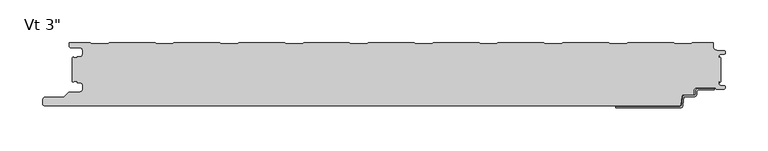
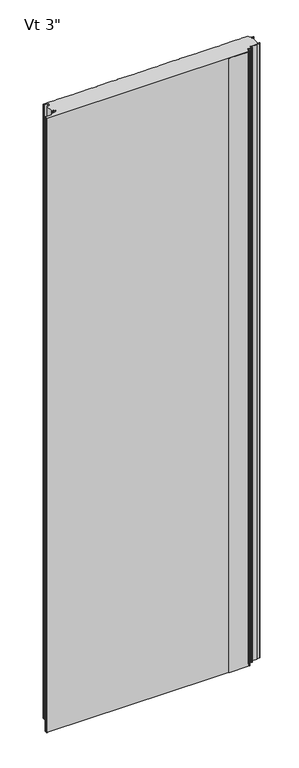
"""IFC4 building model written with IfcOpenShell, lengths in millimetres: plate geometry."""

from ifc_helpers import new_model, si_unit, frame, origin, place, context, project, spatial, polyline, circle_curve, source, transform, mapped, element, save
from ifc_brep_helpers import plane_surface, cylinder_surface, revolved_surface, advanced_brep


def plate_a019a109(model_context):
    return source(origin(), model_context, "Body", "AdvancedBrep", [
        advanced_brep(
        [(354.8464083, -55.1008679, 0.0), (373.5916083, -55.1008679, 0.0), (373.5916083, -56.6248679, 0.0), (354.8464083, -56.6248679, 0.0), (353.3224083, -58.1488679, 0.0), (353.3224083, -61.2476679, 0.0), (349.8680083, -64.7020679, 0.0), (338.655451, -64.7020679, 0.0), (337.8963506, -65.3976552, 0.0), (336.701523, -74.9416507, 0.0), (333.6651216, -77.724, 0.0), (258.0978083, -77.7360323, 0.0), (258.0978083, -76.2, 0.0), (333.6651216, -76.2, 0.0), (335.1833223, -74.8088254, 0.0), (336.3781499, -65.2648299, 0.0), (338.655451, -63.1780679, 0.0), (349.8680083, -63.1780679, 0.0), (351.7984083, -61.2476679, 0.0), (351.7984083, -58.1488679, 0.0), (354.8464083, -55.1008679, 2400.0), (351.7984083, -58.1488679, 2400.0), (351.7984083, -61.2476679, 2400.0), (349.8680083, -63.1780679, 2400.0), (338.655451, -63.1780679, 2400.0), (336.3781499, -65.2648299, 2400.0), (335.1833223, -74.8088254, 2400.0), (333.6651216, -76.2, 2400.0), (258.0978083, -76.2, 2400.0), (258.0978083, -77.7360323, 2400.0), (333.6651216, -77.7360323, 2400.0), (336.701523, -74.9416507, 2400.0), (337.8963506, -65.3976552, 2400.0), (338.655451, -64.7020679, 2400.0), (349.8680083, -64.7020679, 2400.0), (353.3224083, -61.2476679, 2400.0), (353.3224083, -58.1488679, 2400.0), (354.8464083, -56.6248679, 2400.0), (373.5916083, -56.6248679, 2400.0), (373.5916083, -55.1008679, 2400.0)],
        [
            (0, 1),
            (1, 2),
            (2, 3),
            (3, 4, circle_curve(frame((354.8464083, -58.1488679, 0.0), z_axis=(0.0, 0.0, 1.0), x_axis=(0.0, 1.0, 0.0)), 1.524)),
            (4, 5),
            (5, 6, circle_curve(frame((349.8680083, -61.2476679, 0.0), z_axis=(0.0, 0.0, -1.0), x_axis=(0.0, 1.0, 0.0)), 3.4544)),
            (6, 7),
            (7, 8, circle_curve(frame((338.655451, -65.4640679, 0.0), z_axis=(0.0, 0.0, 1.0), x_axis=(0.0, 1.0, 0.0)), 0.762)),
            (8, 9),
            (9, 10, circle_curve(frame((333.6651216, -74.676, 0.0), z_axis=(0.0, 0.0, -1.0), x_axis=(0.0, 1.0, 0.0)), 3.048)),
            (10, 11),
            (11, 12),
            (12, 13),
            (13, 14, circle_curve(frame((333.6651216, -74.676, 0.0), z_axis=(0.0, 0.0, 1.0), x_axis=(0.0, 1.0, 0.0)), 1.524)),
            (14, 15),
            (15, 16, circle_curve(frame((338.655451, -65.4640679, 0.0), z_axis=(0.0, 0.0, -1.0), x_axis=(0.0, 1.0, 0.0)), 2.286)),
            (16, 17),
            (17, 18, circle_curve(frame((349.8680083, -61.2476679, 0.0), z_axis=(0.0, 0.0, 1.0), x_axis=(0.0, 1.0, 0.0)), 1.9304)),
            (18, 19),
            (19, 0, circle_curve(frame((354.8464083, -58.1488679, 0.0), z_axis=(0.0, 0.0, -1.0), x_axis=(0.0, 1.0, 0.0)), 3.048)),
            (20, 21, circle_curve(frame((354.8464083, -58.1488679, 2400.0), z_axis=(0.0, 0.0, 1.0), x_axis=(0.0, 1.0, 0.0)), 3.048)),
            (21, 22),
            (22, 23, circle_curve(frame((349.8680083, -61.2476679, 2400.0), z_axis=(0.0, 0.0, -1.0), x_axis=(0.0, 1.0, 0.0)), 1.9304)),
            (23, 24),
            (24, 25, circle_curve(frame((338.655451, -65.4640679, 2400.0), z_axis=(0.0, 0.0, 1.0), x_axis=(0.0, 1.0, 0.0)), 2.286)),
            (25, 26),
            (26, 27, circle_curve(frame((333.6651216, -74.676, 2400.0), z_axis=(0.0, 0.0, -1.0), x_axis=(0.0, 1.0, 0.0)), 1.524)),
            (27, 28),
            (28, 29),
            (29, 30),
            (30, 31, circle_curve(frame((333.6651216, -74.676, 2400.0), z_axis=(0.0, 0.0, 1.0), x_axis=(0.0, 1.0, 0.0)), 3.048)),
            (31, 32),
            (32, 33, circle_curve(frame((338.655451, -65.4640679, 2400.0), z_axis=(0.0, 0.0, -1.0), x_axis=(0.0, 1.0, 0.0)), 0.762)),
            (33, 34),
            (34, 35, circle_curve(frame((349.8680083, -61.2476679, 2400.0), z_axis=(0.0, 0.0, 1.0), x_axis=(0.0, 1.0, 0.0)), 3.4544)),
            (35, 36),
            (36, 37, circle_curve(frame((354.8464083, -58.1488679, 2400.0), z_axis=(0.0, 0.0, -1.0), x_axis=(0.0, 1.0, 0.0)), 1.524)),
            (37, 38),
            (38, 39),
            (39, 20),
            (2, 38),
            (37, 3),
            (15, 25),
            (24, 16),
            (7, 33),
            (32, 8),
            (5, 35),
            (34, 6),
            (1, 39),
            (36, 4),
            (9, 31),
            (30, 10),
            (13, 27),
            (26, 14),
            (0, 20),
            (12, 28),
            (29, 11),
            (23, 17),
            (18, 22),
            (21, 19),
        ],
        [
            plane_surface(frame((373.5916083, -76.2, 0.0), z_axis=(0.0, 0.0, -1.0), x_axis=(-1.0, 0.0, 0.0))),
            plane_surface(frame((373.5916083, -76.2, 2400.0), z_axis=(0.0, 0.0, 1.0), x_axis=(-1.0, 0.0, 0.0))),
            plane_surface(frame((354.8464083, -56.6248679, 0.0), z_axis=(0.0, -1.0, 0.0), x_axis=(0.0, 0.0, 1.0))),
            cylinder_surface(frame((338.655451, -65.4640679, 0.0), z_axis=(0.0, 0.0, -1.0), x_axis=(0.0, 1.0, 0.0)), 2.286),
            revolved_surface(polyline([(338.655451, -64.7020679, 2400.0), (338.655451, -64.7020679, 0.0)]), (338.655451, -65.4640679, 0.0), (0.0, 0.0, 1.0)),
            cylinder_surface(frame((349.8680083, -61.2476679, 0.0), z_axis=(0.0, 0.0, -1.0), x_axis=(0.0, 1.0, 0.0)), 3.4544),
            plane_surface(frame((373.5916083, -56.6248679, 0.0), z_axis=(1.0, 0.0, 0.0), x_axis=(0.0, 0.0, 1.0))),
            revolved_surface(polyline([(354.8464083, -56.6248679, 2400.0), (354.8464083, -56.6248679, 0.0)]), (354.8464083, -58.1488679, 0.0), (0.0, 0.0, 1.0)),
            cylinder_surface(frame((333.6651216, -74.676, 0.0), z_axis=(0.0, 0.0, -1.0), x_axis=(0.0, 1.0, 0.0)), 3.048),
            revolved_surface(polyline([(333.6651216, -73.152, 2400.0), (333.6651216, -73.152, 0.0)]), (333.6651216, -74.676, 0.0), (0.0, 0.0, 1.0)),
            plane_surface(frame((373.5916083, -55.1008679, 0.0), z_axis=(0.0, 1.0, 0.0), x_axis=(0.0, 0.0, 1.0))),
            plane_surface(frame((336.3781499, -65.2648299, 0.0), z_axis=(-0.9922544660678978, 0.12422187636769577, 0.0), x_axis=(0.0, 0.0, 1.0))),
            plane_surface(frame((333.6651216, -76.2, 0.0), z_axis=(0.0, 1.0, 0.0), x_axis=(0.0, 0.0, 1.0))),
            plane_surface(frame((336.701523, -74.9416507, 0.0), z_axis=(0.9922544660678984, -0.12422187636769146, 0.0), x_axis=(0.0, 0.0, 1.0))),
            plane_surface(frame((353.3224083, -61.2476679, 0.0), z_axis=(1.0, 0.0, 0.0), x_axis=(0.0, 0.0, 1.0))),
            plane_surface(frame((258.0978083, -77.7360323, 0.0), z_axis=(0.0, -1.0, 0.0), x_axis=(0.0, 0.0, 1.0))),
            plane_surface(frame((258.0978083, -76.2, 0.0), z_axis=(-1.0, 0.0, 0.0), x_axis=(0.0, 0.0, 1.0))),
            plane_surface(frame((349.8680083, -63.1780679, 0.0), z_axis=(0.0, 1.0, 0.0), x_axis=(0.0, 0.0, 1.0))),
            plane_surface(frame((351.7984083, -58.1488679, 0.0), z_axis=(-1.0, 0.0, 0.0), x_axis=(0.0, 0.0, 1.0))),
            plane_surface(frame((338.655451, -64.7020679, 0.0), z_axis=(0.0, -1.0, 0.0), x_axis=(0.0, 0.0, 1.0))),
            revolved_surface(polyline([(349.8680083, -59.317267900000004, 2400.0), (349.8680083, -59.317267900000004, 0.0)]), (349.8680083, -61.2476679, 0.0), (0.0, 0.0, 1.0)),
            cylinder_surface(frame((354.8464083, -58.1488679, 0.0), z_axis=(0.0, 0.0, -1.0), x_axis=(0.0, 1.0, 0.0)), 3.048),
        ],
        [
            (0, [[1, 2, 3, 4, 5, 6, 7, 8, 9, 10, 11, 12, 13, 14, 15, 16, 17, 18, 19, 20]]),
            (1, [[21, 22, 23, 24, 25, 26, 27, 28, 29, 30, 31, 32, 33, 34, 35, 36, 37, 38, 39, 40]]),
            (2, [[41, -38, 42, -3]]),
            (3, [[43, -25, 44, -16]]),
            (4, [[45, -33, 46, -8]]),
            (5, [[47, -35, 48, -6]]),
            (6, [[49, -39, -41, -2]]),
            (7, [[-42, -37, 50, -4]]),
            (8, [[51, -31, 52, -10]]),
            (9, [[53, -27, 54, -14]]),
            (10, [[55, -40, -49, -1]]),
            (11, [[-54, -26, -43, -15]]),
            (12, [[56, -28, -53, -13]]),
            (13, [[-46, -32, -51, -9]]),
            (14, [[-50, -36, -47, -5]]),
            (15, [[-52, -30, 57, -11]]),
            (16, [[-57, -29, -56, -12]]),
            (17, [[-44, -24, 58, -17]]),
            (18, [[59, -22, 60, -19]]),
            (19, [[-48, -34, -45, -7]]),
            (20, [[-58, -23, -59, -18]]),
            (21, [[-60, -21, -55, -20]]),
        ],
    ),
        advanced_brep(
        [(-379.9683001, -47.8708722, 2400.0), (-378.7671761, -46.7013975, 2400.0), (-375.0087827, -46.7013975, 2400.0), (-375.0087827, -48.0998764, 2400.0), (-372.3096717, -48.0998764, 2400.0), (-368.9596764, -51.4498717, 2400.0), (-368.9596764, -55.8498629, 2400.0), (-372.3096717, -59.1998582, 2400.0), (-384.1205608, -59.1998582, 2400.0), (-385.3226385, -59.6977751, 2400.0), (-390.8247096, -65.1998462, 2400.0), (-412.9198392, -65.1998462, 2400.0), (-415.5765709, -67.4184482, 2400.0), (-416.0125699, -72.4002691, 2400.0), (-413.4521176, -75.194594, 2400.0), (332.515622, -75.1999973, 2400.0), (334.4669057, -73.4149232, 2400.0), (335.221161, -64.9539464, 2400.0), (338.3653654, -62.1906435, 2400.0), (348.4583308, -62.1906435, 2400.0), (349.4097394, -61.2392348, 2400.0), (349.4097394, -58.0955794, 2400.0), (353.4091924, -54.0961265, 2400.0), (374.5895515, -54.0961265, 2400.0), (375.7334028, -56.0769743, 2400.0), (384.706811, -55.721714, 2400.0), (384.7037148, -51.5211364, 2400.0), (380.6977997, -51.2767215, 2400.0), (378.9686884, -49.4819089, 2400.0), (378.9686884, -46.6973623, 2400.0), (379.9686884, -46.6973623, 2400.0), (379.9686884, -48.2848623, 2400.0), (381.0, -47.2535507, 2400.0), (381.0, -18.6184498, 2400.0), (379.9686884, -17.5871382, 2400.0), (379.9686884, -19.0015261, 2400.0), (378.9686884, -19.0015261, 2400.0), (378.9686884, -16.6743434, 2400.0), (380.6513685, -14.9256402, 2400.0), (384.7921924, -14.7059795, 2400.0), (384.7931719, -10.4046415, 2400.0), (376.3016499, -9.9974338, 2400.0), (372.4787013, -6.002598, 2400.0), (372.4787013, -0.9999973, 2400.0), (347.9790963, -0.9999973, 2400.0), (346.5934634, -2.200228, 2400.0), (327.2182971, -2.200228, 2400.0), (325.8326641, -0.9999973, 2400.0), (271.7792487, -0.9999973, 2400.0), (270.3936158, -2.200228, 2400.0), (251.0184495, -2.200228, 2400.0), (249.6328165, -0.9999973, 2400.0), (195.5794011, -0.9999973, 2400.0), (194.1937682, -2.200228, 2400.0), (174.8186019, -2.200228, 2400.0), (173.4329689, -0.9999973, 2400.0), (119.3795535, -0.9999973, 2400.0), (117.9939206, -2.200228, 2400.0), (98.6187543, -2.200228, 2400.0), (97.2331213, -0.9999973, 2400.0), (43.1797059, -0.9999973, 2400.0), (41.794073, -2.200228, 2400.0), (22.4189067, -2.200228, 2400.0), (21.0332737, -0.9999973, 2400.0), (-33.0201417, -0.9999973, 2400.0), (-34.4057746, -2.200228, 2400.0), (-53.7809409, -2.200228, 2400.0), (-55.1665739, -0.9999973, 2400.0), (-109.2199893, -0.9999973, 2400.0), (-110.6056222, -2.200228, 2400.0), (-129.9807885, -2.200228, 2400.0), (-131.3664215, -0.9999973, 2400.0), (-185.4198369, -0.9999973, 2400.0), (-186.8054698, -2.200228, 2400.0), (-206.1806361, -2.200228, 2400.0), (-207.5662691, -0.9999973, 2400.0), (-261.6196845, -0.9999973, 2400.0), (-263.0053174, -2.200228, 2400.0), (-282.3804837, -2.200228, 2400.0), (-283.7661167, -0.9999973, 2400.0), (-337.8195321, -0.9999973, 2400.0), (-339.205165, -2.200228, 2400.0), (-358.5803313, -2.200228, 2400.0), (-359.965974, -0.9999889, 2400.0), (-384.4662506, -0.9999889, 2400.0), (-384.4662506, -5.2315362, 2400.0), (-382.6962564, -7.0015304, 2400.0), (-372.2762778, -7.0015304, 2400.0), (-368.976282, -10.3015263, 2400.0), (-368.976282, -14.7015175, 2400.0), (-372.2762777, -18.0015132, 2400.0), (-374.9684875, -18.0015132, 2400.0), (-374.9684875, -19.0015077, 2400.0), (-378.9686911, -19.0015077, 2400.0), (-379.9686883, -18.0015165, 2400.0), (-381.0, -19.0328281, 2400.0), (-381.0, -46.8391724, 2400.0), (-379.9683001, -47.8708722, 0.0), (-381.0, -46.8391724, 0.0), (-381.0, -19.0328281, 0.0), (-379.9686883, -18.0015165, 0.0), (-378.9686911, -19.0015077, 0.0), (-374.9684875, -19.0015077, 0.0), (-374.9684875, -18.0015132, 0.0), (-372.2762777, -18.0015132, 0.0), (-368.976282, -14.7015175, 0.0), (-368.976282, -10.3015263, 0.0), (-372.2762778, -7.0015304, 0.0), (-382.6962564, -7.0015304, 0.0), (-384.4662506, -5.2315362, 0.0), (-384.4662506, -0.9999889, 0.0), (-359.965974, -0.9999889, 0.0), (-358.5803313, -2.200228, 0.0), (-339.205165, -2.200228, 0.0), (-337.8195321, -0.9999973, 0.0), (-283.7661167, -0.9999973, 0.0), (-282.3804837, -2.200228, 0.0), (-263.0053174, -2.200228, 0.0), (-261.6196845, -0.9999973, 0.0), (-207.5662691, -0.9999973, 0.0), (-206.1806361, -2.200228, 0.0), (-186.8054698, -2.200228, 0.0), (-185.4198369, -0.9999973, 0.0), (-131.3664215, -0.9999973, 0.0), (-129.9807885, -2.200228, 0.0), (-110.6056222, -2.200228, 0.0), (-109.2199893, -0.9999973, 0.0), (-55.1665739, -0.9999973, 0.0), (-53.7809409, -2.200228, 0.0), (-34.4057746, -2.200228, 0.0), (-33.0201417, -0.9999973, 0.0), (21.0332737, -0.9999973, 0.0), (22.4189067, -2.200228, 0.0), (41.794073, -2.200228, 0.0), (43.1797059, -0.9999973, 0.0), (97.2331213, -0.9999973, 0.0), (98.6187543, -2.200228, 0.0), (117.9939206, -2.200228, 0.0), (119.3795535, -0.9999973, 0.0), (173.4329689, -0.9999973, 0.0), (174.8186019, -2.200228, 0.0), (194.1937682, -2.200228, 0.0), (195.5794011, -0.9999973, 0.0), (249.6328165, -0.9999973, 0.0), (251.0184495, -2.200228, 0.0), (270.3936158, -2.200228, 0.0), (271.7792487, -0.9999973, 0.0), (325.8326641, -0.9999973, 0.0), (327.2182971, -2.200228, 0.0), (346.5934634, -2.200228, 0.0), (347.9790963, -0.9999973, 0.0), (372.4787013, -0.9999973, 0.0), (372.4787013, -6.002598, 0.0), (376.3016499, -9.9974338, 0.0), (384.7931719, -10.4046415, 0.0), (384.7921924, -14.7059795, 0.0), (380.6513685, -14.9256402, 0.0), (378.9686884, -16.6743434, 0.0), (378.9686884, -19.0015261, 0.0), (379.9686884, -19.0015261, 0.0), (379.9686884, -17.5871382, 0.0), (381.0, -18.6184498, 0.0), (381.0, -47.2535507, 0.0), (379.9686884, -48.2848623, 0.0), (379.9686884, -46.6973623, 0.0), (378.9686884, -46.6973623, 0.0), (378.9686884, -49.4819089, 0.0), (380.6977997, -51.2767215, 0.0), (384.7037148, -51.5211364, 0.0), (384.706811, -55.721714, 0.0), (375.7334028, -56.0769743, 0.0), (374.5895515, -54.0961265, 0.0), (353.4091924, -54.0961265, 0.0), (349.4097394, -58.0955794, 0.0), (349.4097394, -61.2392348, 0.0), (348.4583308, -62.1906435, 0.0), (338.3653654, -62.1906435, 0.0), (335.221161, -64.9539464, 0.0), (334.4669057, -73.4149232, 0.0), (332.515622, -75.1999973, 0.0), (-413.4521176, -75.1999973, 0.0), (-416.0125699, -72.4002691, 0.0), (-415.5765709, -67.4184482, 0.0), (-412.9198392, -65.1998462, 0.0), (-390.8247096, -65.1998462, 0.0), (-385.3226385, -59.6977751, 0.0), (-384.1205608, -59.1998582, 0.0), (-372.3096717, -59.1998582, 0.0), (-368.9596764, -55.8498629, 0.0), (-368.9596764, -51.4498717, 0.0), (-372.3096717, -48.0998764, 0.0), (-375.0087827, -48.0998764, 0.0), (-375.0087827, -46.7013975, 0.0), (-378.7671761, -46.7013975, 0.0)],
        [
            (0, 1, circle_curve(frame((-378.7686908, -47.9013942, 2400.0), z_axis=(0.0, 0.0, -1.0), x_axis=(-1.0, 0.0, 0.0)), 1.1999976)),
            (1, 2),
            (2, 3),
            (3, 4),
            (4, 5, circle_curve(frame((-372.3096717, -51.4498717, 2400.0), z_axis=(0.0, 0.0, -1.0), x_axis=(-1.0, 0.0, 0.0)), 3.3499953)),
            (5, 6),
            (6, 7, circle_curve(frame((-372.3096717, -55.8498629, 2400.0), z_axis=(0.0, 0.0, -1.0), x_axis=(-1.0, 0.0, 0.0)), 3.3499953)),
            (7, 8),
            (8, 9, circle_curve(frame((-384.1205608, -60.8998528, 2400.0), z_axis=(0.0, 0.0, 1.0), x_axis=(-1.0, 0.0, 0.0)), 1.6999946)),
            (9, 10),
            (10, 11),
            (11, 12, circle_curve(frame((-412.9198392, -67.8998388, 2400.0), z_axis=(0.0, 0.0, 1.0), x_axis=(-1.0, 0.0, 0.0)), 2.6999926)),
            (12, 13),
            (13, 14, circle_curve(frame((-413.4521176, -72.6243547, 2400.0), z_axis=(0.0, 0.0, 1.0), x_axis=(-1.0, 0.0, 0.0)), 2.5702393)),
            (14, 15),
            (15, 16, circle_curve(frame((332.515622, -73.2409756, 2400.0), z_axis=(0.0, 0.0, 1.0), x_axis=(-1.0, 0.0, 0.0)), 1.9590216)),
            (16, 17),
            (17, 18, circle_curve(frame((338.2396267, -65.2180294, 2400.0), z_axis=(0.0, 0.0, -1.0), x_axis=(-1.0, 0.0, 0.0)), 3.0299959)),
            (18, 19),
            (19, 20, circle_curve(frame((348.4583308, -61.2392348, 2400.0), z_axis=(0.0, 0.0, 1.0), x_axis=(-1.0, 0.0, 0.0)), 0.9514087)),
            (20, 21),
            (21, 22, circle_curve(frame((353.4091924, -58.0955794, 2400.0), z_axis=(0.0, 0.0, -1.0), x_axis=(-1.0, 0.0, 0.0)), 3.9994529)),
            (22, 23),
            (23, 24),
            (24, 25),
            (25, 26, circle_curve(frame((384.6236622, -53.6214853, 2400.0), z_axis=(0.0, 0.0, 1.0), x_axis=(-1.0, 0.0, 0.0)), 2.1018739)),
            (26, 27),
            (27, 28, circle_curve(frame((380.8099653, -49.4383479, 2400.0), z_axis=(0.0, 0.0, -1.0), x_axis=(-1.0, 0.0, 0.0)), 1.8417922)),
            (28, 29),
            (29, 30),
            (30, 31),
            (31, 32),
            (32, 33),
            (33, 34),
            (34, 35),
            (35, 36),
            (36, 37),
            (37, 38, circle_curve(frame((380.7186869, -16.6743434, 2400.0), z_axis=(0.0, 0.0, -1.0), x_axis=(1.0, 0.0, 0.0)), 1.7499985)),
            (38, 39),
            (39, 40, circle_curve(frame((384.6781032, -12.5552844, 2400.0), z_axis=(0.0, 0.0, 1.0), x_axis=(1.0, 0.0, 0.0)), 2.153719)),
            (40, 41),
            (41, 42, circle_curve(frame((376.4939817, -5.9867311, 2400.0), z_axis=(0.0, 0.0, -1.0), x_axis=(1.0, 0.0, 0.0)), 4.0153117)),
            (42, 43),
            (43, 44),
            (44, 45),
            (45, 46),
            (46, 47),
            (47, 48),
            (48, 49),
            (49, 50),
            (50, 51),
            (51, 52),
            (52, 53),
            (53, 54),
            (54, 55),
            (55, 56),
            (56, 57),
            (57, 58),
            (58, 59),
            (59, 60),
            (60, 61),
            (61, 62),
            (62, 63),
            (63, 64),
            (64, 65),
            (65, 66),
            (66, 67),
            (67, 68),
            (68, 69),
            (69, 70),
            (70, 71),
            (71, 72),
            (72, 73),
            (73, 74),
            (74, 75),
            (75, 76),
            (76, 77),
            (77, 78),
            (78, 79),
            (79, 80),
            (80, 81),
            (81, 82),
            (82, 83),
            (83, 84),
            (84, 85),
            (85, 86, circle_curve(frame((-382.6962564, -5.2315362, 2400.0), z_axis=(0.0, 0.0, 1.0), x_axis=(1.0, 0.0, 0.0)), 1.7699942)),
            (86, 87),
            (87, 88, circle_curve(frame((-372.2762778, -10.3015263, 2400.0), z_axis=(0.0, 0.0, -1.0), x_axis=(1.0, 0.0, 0.0)), 3.2999959)),
            (88, 89),
            (89, 90, circle_curve(frame((-372.2762777, -14.7015175, 2400.0), z_axis=(0.0, 0.0, -1.0), x_axis=(1.0, 0.0, 0.0)), 3.2999957)),
            (90, 91),
            (91, 92),
            (92, 93),
            (93, 94, circle_curve(frame((-378.9686911, -18.0015105, 2400.0), z_axis=(0.0, 0.0, -1.0), x_axis=(1.0, 0.0, 0.0)), 0.9999972)),
            (94, 95),
            (95, 96),
            (96, 0),
            (97, 98),
            (98, 99),
            (99, 100),
            (100, 101, circle_curve(frame((-378.9686911, -18.0015105, 0.0), z_axis=(0.0, 0.0, 1.0), x_axis=(1.0, 0.0, 0.0)), 0.9999972)),
            (101, 102),
            (102, 103),
            (103, 104),
            (104, 105, circle_curve(frame((-372.2762777, -14.7015175, 0.0), z_axis=(0.0, 0.0, 1.0), x_axis=(1.0, 0.0, 0.0)), 3.2999957)),
            (105, 106),
            (106, 107, circle_curve(frame((-372.2762778, -10.3015263, 0.0), z_axis=(0.0, 0.0, 1.0), x_axis=(1.0, 0.0, 0.0)), 3.2999959)),
            (107, 108),
            (108, 109, circle_curve(frame((-382.6962564, -5.2315362, 0.0), z_axis=(0.0, 0.0, -1.0), x_axis=(1.0, 0.0, 0.0)), 1.7699942)),
            (109, 110),
            (110, 111),
            (111, 112),
            (112, 113),
            (113, 114),
            (114, 115),
            (115, 116),
            (116, 117),
            (117, 118),
            (118, 119),
            (119, 120),
            (120, 121),
            (121, 122),
            (122, 123),
            (123, 124),
            (124, 125),
            (125, 126),
            (126, 127),
            (127, 128),
            (128, 129),
            (129, 130),
            (130, 131),
            (131, 132),
            (132, 133),
            (133, 134),
            (134, 135),
            (135, 136),
            (136, 137),
            (137, 138),
            (138, 139),
            (139, 140),
            (140, 141),
            (141, 142),
            (142, 143),
            (143, 144),
            (144, 145),
            (145, 146),
            (146, 147),
            (147, 148),
            (148, 149),
            (149, 150),
            (150, 151),
            (151, 152),
            (152, 153, circle_curve(frame((376.4939817, -5.9867311, 0.0), z_axis=(0.0, 0.0, 1.0), x_axis=(1.0, 0.0, 0.0)), 4.0153117)),
            (153, 154),
            (154, 155, circle_curve(frame((384.6781032, -12.5552844, 0.0), z_axis=(0.0, 0.0, -1.0), x_axis=(1.0, 0.0, 0.0)), 2.153719)),
            (155, 156),
            (156, 157, circle_curve(frame((380.7186869, -16.6743434, 0.0), z_axis=(0.0, 0.0, 1.0), x_axis=(1.0, 0.0, 0.0)), 1.7499985)),
            (157, 158),
            (158, 159),
            (159, 160),
            (160, 161),
            (161, 162),
            (162, 163),
            (163, 164),
            (164, 165),
            (165, 166),
            (166, 167, circle_curve(frame((380.8099653, -49.4383479, 0.0), z_axis=(0.0, 0.0, 1.0), x_axis=(-1.0, 0.0, 0.0)), 1.8417922)),
            (167, 168),
            (168, 169, circle_curve(frame((384.6236622, -53.6214853, 0.0), z_axis=(0.0, 0.0, -1.0), x_axis=(-1.0, 0.0, 0.0)), 2.1018739)),
            (169, 170),
            (170, 171),
            (171, 172),
            (172, 173, circle_curve(frame((353.4091924, -58.0955794, 0.0), z_axis=(0.0, 0.0, 1.0), x_axis=(-1.0, 0.0, 0.0)), 3.9994529)),
            (173, 174),
            (174, 175, circle_curve(frame((348.4583308, -61.2392348, 0.0), z_axis=(0.0, 0.0, -1.0), x_axis=(-1.0, 0.0, 0.0)), 0.9514087)),
            (175, 176),
            (176, 177, circle_curve(frame((338.2396267, -65.2180294, 0.0), z_axis=(0.0, 0.0, 1.0), x_axis=(-1.0, 0.0, 0.0)), 3.0299959)),
            (177, 178),
            (178, 179, circle_curve(frame((332.515622, -73.2409756, 0.0), z_axis=(0.0, 0.0, -1.0), x_axis=(-1.0, 0.0, 0.0)), 1.9590216)),
            (179, 180),
            (180, 181, circle_curve(frame((-413.4521176, -72.6243547, 0.0), z_axis=(0.0, 0.0, -1.0), x_axis=(-1.0, 0.0, 0.0)), 2.5702393)),
            (181, 182),
            (182, 183, circle_curve(frame((-412.9198392, -67.8998388, 0.0), z_axis=(0.0, 0.0, -1.0), x_axis=(-1.0, 0.0, 0.0)), 2.6999926)),
            (183, 184),
            (184, 185),
            (185, 186, circle_curve(frame((-384.1205608, -60.8998528, 0.0), z_axis=(0.0, 0.0, -1.0), x_axis=(-1.0, 0.0, 0.0)), 1.6999946)),
            (186, 187),
            (187, 188, circle_curve(frame((-372.3096717, -55.8498629, 0.0), z_axis=(0.0, 0.0, 1.0), x_axis=(-1.0, 0.0, 0.0)), 3.3499953)),
            (188, 189),
            (189, 190, circle_curve(frame((-372.3096717, -51.4498717, 0.0), z_axis=(0.0, 0.0, 1.0), x_axis=(-1.0, 0.0, 0.0)), 3.3499953)),
            (190, 191),
            (191, 192),
            (192, 193),
            (193, 97, circle_curve(frame((-378.7686908, -47.9013942, 0.0), z_axis=(0.0, 0.0, 1.0), x_axis=(-1.0, 0.0, 0.0)), 1.1999976)),
            (96, 98),
            (97, 0),
            (95, 99),
            (32, 162),
            (161, 33),
            (31, 163),
            (30, 164),
            (29, 165),
            (28, 166),
            (27, 167),
            (26, 168),
            (25, 169),
            (24, 170),
            (23, 171),
            (22, 172),
            (21, 173),
            (20, 174),
            (19, 175),
            (18, 176),
            (17, 177),
            (16, 178),
            (15, 179),
            (14, 180),
            (13, 181),
            (12, 182),
            (11, 183),
            (10, 184),
            (9, 185),
            (8, 186),
            (7, 187),
            (6, 188),
            (5, 189),
            (4, 190),
            (3, 191),
            (2, 192),
            (1, 193),
            (94, 100),
            (93, 101),
            (92, 102),
            (91, 103),
            (90, 104),
            (89, 105),
            (88, 106),
            (87, 107),
            (86, 108),
            (85, 109),
            (84, 110),
            (83, 111),
            (82, 112),
            (81, 113),
            (80, 114),
            (79, 115),
            (78, 116),
            (77, 117),
            (76, 118),
            (75, 119),
            (74, 120),
            (73, 121),
            (72, 122),
            (71, 123),
            (70, 124),
            (69, 125),
            (68, 126),
            (67, 127),
            (66, 128),
            (65, 129),
            (64, 130),
            (63, 131),
            (62, 132),
            (61, 133),
            (60, 134),
            (59, 135),
            (58, 136),
            (57, 137),
            (56, 138),
            (55, 139),
            (54, 140),
            (53, 141),
            (52, 142),
            (51, 143),
            (50, 144),
            (49, 145),
            (48, 146),
            (47, 147),
            (46, 148),
            (45, 149),
            (44, 150),
            (43, 151),
            (42, 152),
            (41, 153),
            (40, 154),
            (39, 155),
            (38, 156),
            (37, 157),
            (36, 158),
            (35, 159),
            (34, 160),
        ],
        [
            plane_surface(frame((0.0, -75.1999973, 2400.0), z_axis=(0.0, 0.0, 1.0), x_axis=(0.0, -1.0, 0.0))),
            plane_surface(frame((0.0, -75.1999973, 0.0), z_axis=(0.0, 0.0, -1.0), x_axis=(0.0, -1.0, 0.0))),
            plane_surface(frame((-379.9683001, -47.8708722, 2400.0), z_axis=(-0.707106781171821, -0.707106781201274, 0.0), x_axis=(0.0, 0.0, -1.0))),
            plane_surface(frame((-381.0, -46.8391724, 2400.0), z_axis=(-1.0, 0.0, 0.0), x_axis=(0.0, 0.0, -1.0))),
            plane_surface(frame((381.0, -45.8391724, 2400.0), z_axis=(1.0, 0.0, 0.0), x_axis=(0.0, 0.0, -1.0))),
            plane_surface(frame((381.0, -47.2535507, 2400.0), z_axis=(0.7071067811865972, -0.7071067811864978, 0.0), x_axis=(0.0, 0.0, -1.0))),
            plane_surface(frame((379.9686884, -48.2848623, 2400.0), z_axis=(-1.0, 0.0, 0.0), x_axis=(0.0, 0.0, -1.0))),
            plane_surface(frame((379.9686884, -46.6973623, 2400.0), z_axis=(0.0, -1.0, 0.0), x_axis=(0.0, 0.0, -1.0))),
            plane_surface(frame((378.9686884, -46.6973623, 2400.0), z_axis=(1.0, 0.0, 0.0), x_axis=(0.0, 0.0, -1.0))),
            revolved_surface(polyline([(378.9681731, -49.4383479, 0.0), (378.9681731, -49.4383479, 2400.0)]), (380.8099653, -49.4383479, 2400.0), (0.0, 0.0, -1.0)),
            plane_surface(frame((380.6977997, -51.2767215, 2400.0), z_axis=(0.06090025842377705, 0.9981438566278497, 0.0), x_axis=(0.0, 0.0, -1.0))),
            cylinder_surface(frame((384.6236622, -53.6214853, 2400.0), z_axis=(0.0, 0.0, 1.0), x_axis=(-1.0, 0.0, 0.0)), 2.1018739),
            plane_surface(frame((384.706811, -55.721714, 2400.0), z_axis=(0.039559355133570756, -0.9992172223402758, 0.0), x_axis=(0.0, 0.0, -1.0))),
            plane_surface(frame((375.7334028, -56.0769743, 2400.0), z_axis=(-0.8659859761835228, -0.5000682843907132, 0.0), x_axis=(0.0, 0.0, -1.0))),
            plane_surface(frame((374.5895515, -54.0961265, 2400.0), z_axis=(0.0, -1.0, 0.0), x_axis=(0.0, 0.0, -1.0))),
            revolved_surface(polyline([(349.4097395, -58.0955794, 0.0), (349.4097395, -58.0955794, 2400.0)]), (353.4091924, -58.0955794, 2400.0), (0.0, 0.0, -1.0)),
            plane_surface(frame((349.4097394, -58.0955794, 2400.0), z_axis=(1.0, 0.0, 0.0), x_axis=(0.0, 0.0, -1.0))),
            cylinder_surface(frame((348.4583308, -61.2392348, 2400.0), z_axis=(0.0, 0.0, 1.0), x_axis=(-1.0, 0.0, 0.0)), 0.9514087),
            plane_surface(frame((348.4583308, -62.1906435, 2400.0), z_axis=(0.0, -1.0, 0.0), x_axis=(0.0, 0.0, -1.0))),
            revolved_surface(polyline([(335.20963079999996, -65.2180294, 0.0), (335.20963079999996, -65.2180294, 2400.0)]), (338.2396267, -65.2180294, 2400.0), (0.0, 0.0, -1.0)),
            plane_surface(frame((335.221161, -64.9539464, 2400.0), z_axis=(0.9960500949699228, -0.08879306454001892, 0.0), x_axis=(0.0, 0.0, -1.0))),
            cylinder_surface(frame((332.515622, -73.2409756, 2400.0), z_axis=(0.0, 0.0, 1.0), x_axis=(-1.0, 0.0, 0.0)), 1.9590216),
            plane_surface(frame((332.515622, -75.1999973, 2400.0), z_axis=(0.0, -1.0, 0.0), x_axis=(0.0, 0.0, -1.0))),
            cylinder_surface(frame((-413.4521176, -72.6243547, 2400.0), z_axis=(0.0, 0.0, 1.0), x_axis=(-1.0, 0.0, 0.0)), 2.5702393),
            plane_surface(frame((-416.0125699, -72.4002691, 2400.0), z_axis=(-0.9961921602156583, 0.08718474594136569, 0.0), x_axis=(0.0, 0.0, -1.0))),
            cylinder_surface(frame((-412.9198392, -67.8998388, 2400.0), z_axis=(0.0, 0.0, 1.0), x_axis=(-1.0, 0.0, 0.0)), 2.6999926),
            plane_surface(frame((-412.9198392, -65.1998462, 2400.0), z_axis=(0.0, 1.0, 0.0), x_axis=(0.0, 0.0, -1.0))),
            plane_surface(frame((-390.8247096, -65.1998462, 2400.0), z_axis=(-0.7071067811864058, 0.7071067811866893, 0.0), x_axis=(0.0, 0.0, -1.0))),
            cylinder_surface(frame((-384.1205608, -60.8998528, 2400.0), z_axis=(0.0, 0.0, 1.0), x_axis=(-1.0, 0.0, 0.0)), 1.6999946),
            plane_surface(frame((-384.1205608, -59.1998582, 2400.0), z_axis=(0.0, 1.0, 0.0), x_axis=(0.0, 0.0, -1.0))),
            revolved_surface(polyline([(-375.659667, -55.8498629, 0.0), (-375.659667, -55.8498629, 2400.0)]), (-372.3096717, -55.8498629, 2400.0), (0.0, 0.0, -1.0)),
            plane_surface(frame((-368.9596764, -55.8498629, 2400.0), z_axis=(-1.0, 0.0, 0.0), x_axis=(0.0, 0.0, -1.0))),
            revolved_surface(polyline([(-375.659667, -51.4498717, 0.0), (-375.659667, -51.4498717, 2400.0)]), (-372.3096717, -51.4498717, 2400.0), (0.0, 0.0, -1.0)),
            plane_surface(frame((-372.3096717, -48.0998764, 2400.0), z_axis=(0.0, -1.0, 0.0), x_axis=(0.0, 0.0, -1.0))),
            plane_surface(frame((-375.0087827, -48.0998764, 2400.0), z_axis=(-1.0, 0.0, 0.0), x_axis=(0.0, 0.0, -1.0))),
            plane_surface(frame((-375.0087827, -46.7013975, 2400.0), z_axis=(0.0, -1.0, 0.0), x_axis=(0.0, 0.0, -1.0))),
            revolved_surface(polyline([(-379.9686884, -47.9013942, 0.0), (-379.9686884, -47.9013942, 2400.0)]), (-378.7686908, -47.9013942, 2400.0), (0.0, 0.0, -1.0)),
            plane_surface(frame((-381.0, -19.0328281, 2400.0), z_axis=(-0.70710678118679, 0.707106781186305, 0.0), x_axis=(0.0, 0.0, -1.0))),
            revolved_surface(polyline([(-377.9686939, -18.0015105, 0.0), (-377.9686939, -18.0015105, 2400.0)]), (-378.9686911, -18.0015105, 2400.0), (0.0, 0.0, -1.0)),
            plane_surface(frame((-378.9686911, -19.0015077, 2400.0), z_axis=(0.0, 1.0, 0.0), x_axis=(0.0, 0.0, -1.0))),
            plane_surface(frame((-374.9684875, -19.0015077, 2400.0), z_axis=(-1.0, 0.0, 0.0), x_axis=(0.0, 0.0, -1.0))),
            plane_surface(frame((-374.9684875, -18.0015132, 2400.0), z_axis=(0.0, 1.0, 0.0), x_axis=(0.0, 0.0, -1.0))),
            revolved_surface(polyline([(-368.97628199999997, -14.7015175, 0.0), (-368.97628199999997, -14.7015175, 2400.0)]), (-372.2762777, -14.7015175, 2400.0), (0.0, 0.0, -1.0)),
            plane_surface(frame((-368.976282, -14.7015175, 2400.0), z_axis=(-1.0, 0.0, 0.0), x_axis=(0.0, 0.0, -1.0))),
            revolved_surface(polyline([(-368.9762819, -10.3015263, 0.0), (-368.9762819, -10.3015263, 2400.0)]), (-372.2762778, -10.3015263, 2400.0), (0.0, 0.0, -1.0)),
            plane_surface(frame((-372.2762778, -7.0015304, 2400.0), z_axis=(0.0, -1.0, 0.0), x_axis=(0.0, 0.0, -1.0))),
            cylinder_surface(frame((-382.6962564, -5.2315362, 2400.0), z_axis=(0.0, 0.0, 1.0), x_axis=(1.0, 0.0, 0.0)), 1.7699942),
            plane_surface(frame((-384.4662506, -5.2315362, 2400.0), z_axis=(-1.0, 0.0, 0.0), x_axis=(0.0, 0.0, -1.0))),
            plane_surface(frame((-384.4662506, -0.9999889, 2400.0), z_axis=(0.0, 1.0, 0.0), x_axis=(0.0, 0.0, -1.0))),
            plane_surface(frame((-359.965974, -0.9999889, 2400.0), z_axis=(0.6547276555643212, 0.7558648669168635, 0.0), x_axis=(0.0, 0.0, -1.0))),
            plane_surface(frame((-358.5803313, -2.200228, 2400.0), z_axis=(0.0, 1.0, 0.0), x_axis=(0.0, 0.0, -1.0))),
            plane_surface(frame((-339.205165, -2.200228, 2400.0), z_axis=(-0.6547276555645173, 0.7558648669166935, 0.0), x_axis=(0.0, 0.0, -1.0))),
            plane_surface(frame((-337.8195321, -0.9999973, 2400.0), z_axis=(0.0, 1.0, 0.0), x_axis=(0.0, 0.0, -1.0))),
            plane_surface(frame((-283.7661167, -0.9999973, 2400.0), z_axis=(0.65472765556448, 0.7558648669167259, 0.0), x_axis=(0.0, 0.0, -1.0))),
            plane_surface(frame((-282.3804837, -2.200228, 2400.0), z_axis=(0.0, 1.0, 0.0), x_axis=(0.0, 0.0, -1.0))),
            plane_surface(frame((-263.0053174, -2.200228, 2400.0), z_axis=(-0.6547276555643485, 0.7558648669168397, 0.0), x_axis=(0.0, 0.0, -1.0))),
            plane_surface(frame((-261.6196845, -0.9999973, 2400.0), z_axis=(0.0, 1.0, 0.0), x_axis=(0.0, 0.0, -1.0))),
            plane_surface(frame((-207.5662691, -0.9999973, 2400.0), z_axis=(0.6547276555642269, 0.7558648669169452, 0.0), x_axis=(0.0, 0.0, -1.0))),
            plane_surface(frame((-206.1806361, -2.200228, 2400.0), z_axis=(0.0, 1.0, 0.0), x_axis=(0.0, 0.0, -1.0))),
            plane_surface(frame((-186.8054698, -2.200228, 2400.0), z_axis=(-0.6547276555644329, 0.7558648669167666, 0.0), x_axis=(0.0, 0.0, -1.0))),
            plane_surface(frame((-185.4198369, -0.9999973, 2400.0), z_axis=(0.0, 1.0, 0.0), x_axis=(0.0, 0.0, -1.0))),
            plane_surface(frame((-131.3664215, -0.9999973, 2400.0), z_axis=(0.6547276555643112, 0.755864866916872, 0.0), x_axis=(0.0, 0.0, -1.0))),
            plane_surface(frame((-129.9807885, -2.200228, 2400.0), z_axis=(0.0, 1.0, 0.0), x_axis=(0.0, 0.0, -1.0))),
            plane_surface(frame((-110.6056222, -2.200228, 2400.0), z_axis=(-0.6547276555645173, 0.7558648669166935, 0.0), x_axis=(0.0, 0.0, -1.0))),
            plane_surface(frame((-109.2199893, -0.9999973, 2400.0), z_axis=(0.0, 1.0, 0.0), x_axis=(0.0, 0.0, -1.0))),
            plane_surface(frame((-55.1665739, -0.9999973, 2400.0), z_axis=(0.6547276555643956, 0.755864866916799, 0.0), x_axis=(0.0, 0.0, -1.0))),
            plane_surface(frame((-53.7809409, -2.200228, 2400.0), z_axis=(0.0, 1.0, 0.0), x_axis=(0.0, 0.0, -1.0))),
            plane_surface(frame((-34.4057746, -2.200228, 2400.0), z_axis=(-0.6547276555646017, 0.7558648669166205, 0.0), x_axis=(0.0, 0.0, -1.0))),
            plane_surface(frame((-33.0201417, -0.9999973, 2400.0), z_axis=(0.0, 1.0, 0.0), x_axis=(0.0, 0.0, -1.0))),
            plane_surface(frame((21.0332737, -0.9999973, 2400.0), z_axis=(0.65472765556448, 0.7558648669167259, 0.0), x_axis=(0.0, 0.0, -1.0))),
            plane_surface(frame((22.4189067, -2.200228, 2400.0), z_axis=(0.0, 1.0, 0.0), x_axis=(0.0, 0.0, -1.0))),
            plane_surface(frame((41.794073, -2.200228, 2400.0), z_axis=(-0.6547276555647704, 0.7558648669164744, 0.0), x_axis=(0.0, 0.0, -1.0))),
            plane_surface(frame((43.1797059, -0.9999973, 2400.0), z_axis=(0.0, 1.0, 0.0), x_axis=(0.0, 0.0, -1.0))),
            plane_surface(frame((97.2331213, -0.9999973, 2400.0), z_axis=(0.6547276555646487, 0.7558648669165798, 0.0), x_axis=(0.0, 0.0, -1.0))),
            plane_surface(frame((98.6187543, -2.200228, 2400.0), z_axis=(0.0, 1.0, 0.0), x_axis=(0.0, 0.0, -1.0))),
            plane_surface(frame((117.9939206, -2.200228, 2400.0), z_axis=(-0.6547276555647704, 0.7558648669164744, 0.0), x_axis=(0.0, 0.0, -1.0))),
            plane_surface(frame((119.3795535, -0.9999973, 2400.0), z_axis=(0.0, 1.0, 0.0), x_axis=(0.0, 0.0, -1.0))),
            plane_surface(frame((173.4329689, -0.9999973, 2400.0), z_axis=(0.6547276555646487, 0.7558648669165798, 0.0), x_axis=(0.0, 0.0, -1.0))),
            plane_surface(frame((174.8186019, -2.200228, 2400.0), z_axis=(0.0, 1.0, 0.0), x_axis=(0.0, 0.0, -1.0))),
            plane_surface(frame((194.1937682, -2.200228, 2400.0), z_axis=(-0.6547276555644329, 0.7558648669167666, 0.0), x_axis=(0.0, 0.0, -1.0))),
            plane_surface(frame((195.5794011, -0.9999973, 2400.0), z_axis=(0.0, 1.0, 0.0), x_axis=(0.0, 0.0, -1.0))),
            plane_surface(frame((249.6328165, -0.9999973, 2400.0), z_axis=(0.6547276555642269, 0.7558648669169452, 0.0), x_axis=(0.0, 0.0, -1.0))),
            plane_surface(frame((251.0184495, -2.200228, 2400.0), z_axis=(0.0, 1.0, 0.0), x_axis=(0.0, 0.0, -1.0))),
            plane_surface(frame((270.3936158, -2.200228, 2400.0), z_axis=(-0.6547276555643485, 0.7558648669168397, 0.0), x_axis=(0.0, 0.0, -1.0))),
            plane_surface(frame((271.7792487, -0.9999973, 2400.0), z_axis=(0.0, 1.0, 0.0), x_axis=(0.0, 0.0, -1.0))),
            plane_surface(frame((325.8326641, -0.9999973, 2400.0), z_axis=(0.6547276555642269, 0.7558648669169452, 0.0), x_axis=(0.0, 0.0, -1.0))),
            plane_surface(frame((327.2182971, -2.200228, 2400.0), z_axis=(0.0, 1.0, 0.0), x_axis=(0.0, 0.0, -1.0))),
            plane_surface(frame((346.5934634, -2.200228, 2400.0), z_axis=(-0.6547276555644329, 0.7558648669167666, 0.0), x_axis=(0.0, 0.0, -1.0))),
            plane_surface(frame((347.9790963, -0.9999973, 2400.0), z_axis=(0.0, 1.0, 0.0), x_axis=(0.0, 0.0, -1.0))),
            plane_surface(frame((372.4787013, -0.9999973, 2400.0), z_axis=(1.0, 0.0, 0.0), x_axis=(0.0, 0.0, -1.0))),
            revolved_surface(polyline([(380.5092934, -5.9867311, 0.0), (380.5092934, -5.9867311, 2400.0)]), (376.4939817, -5.9867311, 2400.0), (0.0, 0.0, -1.0)),
            plane_surface(frame((376.3016499, -9.9974338, 2400.0), z_axis=(0.04789957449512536, 0.9988521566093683, 0.0), x_axis=(0.0, 0.0, -1.0))),
            cylinder_surface(frame((384.6781032, -12.5552844, 2400.0), z_axis=(0.0, 0.0, 1.0), x_axis=(1.0, 0.0, 0.0)), 2.153719),
            plane_surface(frame((384.7921924, -14.7059795, 2400.0), z_axis=(0.05297310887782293, -0.9985959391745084, 0.0), x_axis=(0.0, 0.0, -1.0))),
            revolved_surface(polyline([(382.4686854, -16.6743434, 0.0), (382.4686854, -16.6743434, 2400.0)]), (380.7186869, -16.6743434, 2400.0), (0.0, 0.0, -1.0)),
            plane_surface(frame((378.9686884, -16.6743434, 2400.0), z_axis=(1.0, 0.0, 0.0), x_axis=(0.0, 0.0, -1.0))),
            plane_surface(frame((378.9686884, -19.0015261, 2400.0), z_axis=(0.0, 1.0, 0.0), x_axis=(0.0, 0.0, -1.0))),
            plane_surface(frame((379.9686884, -19.0015261, 2400.0), z_axis=(-1.0, 0.0, 0.0), x_axis=(0.0, 0.0, -1.0))),
            plane_surface(frame((379.9686884, -17.5871382, 2400.0), z_axis=(0.7071067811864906, 0.7071067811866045, 0.0), x_axis=(0.0, 0.0, -1.0))),
        ],
        [
            (0, [[1, 2, 3, 4, 5, 6, 7, 8, 9, 10, 11, 12, 13, 14, 15, 16, 17, 18, 19, 20, 21, 22, 23, 24, 25, 26, 27, 28, 29, 30, 31, 32, 33, 34, 35, 36, 37, 38, 39, 40, 41, 42, 43, 44, 45, 46, 47, 48, 49, 50, 51, 52, 53, 54, 55, 56, 57, 58, 59, 60, 61, 62, 63, 64, 65, 66, 67, 68, 69, 70, 71, 72, 73, 74, 75, 76, 77, 78, 79, 80, 81, 82, 83, 84, 85, 86, 87, 88, 89, 90, 91, 92, 93, 94, 95, 96, 97]]),
            (1, [[98, 99, 100, 101, 102, 103, 104, 105, 106, 107, 108, 109, 110, 111, 112, 113, 114, 115, 116, 117, 118, 119, 120, 121, 122, 123, 124, 125, 126, 127, 128, 129, 130, 131, 132, 133, 134, 135, 136, 137, 138, 139, 140, 141, 142, 143, 144, 145, 146, 147, 148, 149, 150, 151, 152, 153, 154, 155, 156, 157, 158, 159, 160, 161, 162, 163, 164, 165, 166, 167, 168, 169, 170, 171, 172, 173, 174, 175, 176, 177, 178, 179, 180, 181, 182, 183, 184, 185, 186, 187, 188, 189, 190, 191, 192, 193, 194]]),
            (2, [[195, -98, 196, -97]]),
            (3, [[197, -99, -195, -96]]),
            (4, [[198, -162, 199, -33]]),
            (5, [[200, -163, -198, -32]]),
            (6, [[201, -164, -200, -31]]),
            (7, [[202, -165, -201, -30]]),
            (8, [[203, -166, -202, -29]]),
            (9, [[204, -167, -203, -28]]),
            (10, [[205, -168, -204, -27]]),
            (11, [[206, -169, -205, -26]]),
            (12, [[207, -170, -206, -25]]),
            (13, [[208, -171, -207, -24]]),
            (14, [[209, -172, -208, -23]]),
            (15, [[210, -173, -209, -22]]),
            (16, [[211, -174, -210, -21]]),
            (17, [[212, -175, -211, -20]]),
            (18, [[213, -176, -212, -19]]),
            (19, [[214, -177, -213, -18]]),
            (20, [[215, -178, -214, -17]]),
            (21, [[216, -179, -215, -16]]),
            (22, [[217, -180, -216, -15]]),
            (23, [[218, -181, -217, -14]]),
            (24, [[219, -182, -218, -13]]),
            (25, [[220, -183, -219, -12]]),
            (26, [[221, -184, -220, -11]]),
            (27, [[222, -185, -221, -10]]),
            (28, [[223, -186, -222, -9]]),
            (29, [[224, -187, -223, -8]]),
            (30, [[225, -188, -224, -7]]),
            (31, [[226, -189, -225, -6]]),
            (32, [[227, -190, -226, -5]]),
            (33, [[228, -191, -227, -4]]),
            (34, [[229, -192, -228, -3]]),
            (35, [[230, -193, -229, -2]]),
            (36, [[-196, -194, -230, -1]]),
            (37, [[231, -100, -197, -95]]),
            (38, [[232, -101, -231, -94]]),
            (39, [[233, -102, -232, -93]]),
            (40, [[234, -103, -233, -92]]),
            (41, [[235, -104, -234, -91]]),
            (42, [[236, -105, -235, -90]]),
            (43, [[237, -106, -236, -89]]),
            (44, [[238, -107, -237, -88]]),
            (45, [[239, -108, -238, -87]]),
            (46, [[240, -109, -239, -86]]),
            (47, [[241, -110, -240, -85]]),
            (48, [[242, -111, -241, -84]]),
            (49, [[243, -112, -242, -83]]),
            (50, [[244, -113, -243, -82]]),
            (51, [[245, -114, -244, -81]]),
            (52, [[246, -115, -245, -80]]),
            (53, [[247, -116, -246, -79]]),
            (54, [[248, -117, -247, -78]]),
            (55, [[249, -118, -248, -77]]),
            (56, [[250, -119, -249, -76]]),
            (57, [[251, -120, -250, -75]]),
            (58, [[252, -121, -251, -74]]),
            (59, [[253, -122, -252, -73]]),
            (60, [[254, -123, -253, -72]]),
            (61, [[255, -124, -254, -71]]),
            (62, [[256, -125, -255, -70]]),
            (63, [[257, -126, -256, -69]]),
            (64, [[258, -127, -257, -68]]),
            (65, [[259, -128, -258, -67]]),
            (66, [[260, -129, -259, -66]]),
            (67, [[261, -130, -260, -65]]),
            (68, [[262, -131, -261, -64]]),
            (69, [[263, -132, -262, -63]]),
            (70, [[264, -133, -263, -62]]),
            (71, [[265, -134, -264, -61]]),
            (72, [[266, -135, -265, -60]]),
            (73, [[267, -136, -266, -59]]),
            (74, [[268, -137, -267, -58]]),
            (75, [[269, -138, -268, -57]]),
            (76, [[270, -139, -269, -56]]),
            (77, [[271, -140, -270, -55]]),
            (78, [[272, -141, -271, -54]]),
            (79, [[273, -142, -272, -53]]),
            (80, [[274, -143, -273, -52]]),
            (81, [[275, -144, -274, -51]]),
            (82, [[276, -145, -275, -50]]),
            (83, [[277, -146, -276, -49]]),
            (84, [[278, -147, -277, -48]]),
            (85, [[279, -148, -278, -47]]),
            (86, [[280, -149, -279, -46]]),
            (87, [[281, -150, -280, -45]]),
            (88, [[282, -151, -281, -44]]),
            (89, [[283, -152, -282, -43]]),
            (90, [[284, -153, -283, -42]]),
            (91, [[285, -154, -284, -41]]),
            (92, [[286, -155, -285, -40]]),
            (93, [[287, -156, -286, -39]]),
            (94, [[288, -157, -287, -38]]),
            (95, [[289, -158, -288, -37]]),
            (96, [[290, -159, -289, -36]]),
            (97, [[291, -160, -290, -35]]),
            (98, [[-199, -161, -291, -34]]),
        ],
    ),
    ])


if __name__ == "__main__":
    model = new_model("IFC4")
    model_context = context("Model", 3, world=origin())
    ifc_project = project(units=[si_unit("LENGTHUNIT", "METRE", prefix="MILLI")], contexts=[model_context])
    site = spatial("IfcSite", under=ifc_project)
    building = spatial("IfcBuilding", under=site)
    placement = place(None, origin())
    plate_shape = plate_a019a109(model_context)
    element("IfcPlate", 1, ObjectType="KIP-30-Karrier-KP-R19-CP-Vt-FL3-8_SL : Vt 3\"", at=placement, inside=building, context=model_context, shape_type="MappedRepresentation", body=[
        mapped(plate_shape, transform((0.0, 0.0, 0.0), x_axis=(1.0, 0.0, 0.0), y_axis=(0.0, 1.0, 0.0), z_axis=(0.0, 0.0, 1.0))),
    ])
    save(model, "model.ifc")
